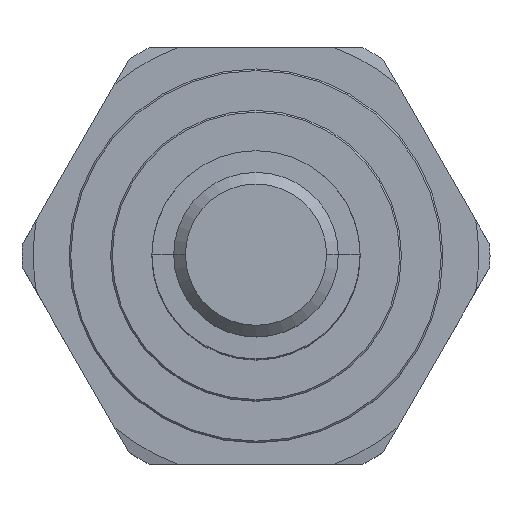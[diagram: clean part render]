
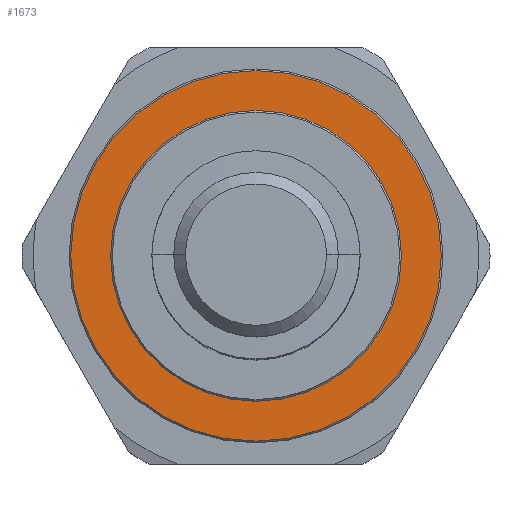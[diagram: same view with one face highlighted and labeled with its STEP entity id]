
A CAD part, top view. The second image highlights one B-rep face of the part: STEP entity #1673.
In plain terms, the highlighted planar face has unit normal (0, 0, 1).
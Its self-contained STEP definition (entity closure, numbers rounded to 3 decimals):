
#47=CARTESIAN_POINT('',(0.,0.,10.77));
#48=DIRECTION('',(0.,0.,-1.));
#49=DIRECTION('',(-1.,0.,0.));
#50=AXIS2_PLACEMENT_3D('',#47,#48,#49);
#52=CARTESIAN_POINT('',(0.,0.,10.77));
#53=DIRECTION('',(0.,0.,-1.));
#54=DIRECTION('',(1.,0.,0.));
#55=AXIS2_PLACEMENT_3D('',#52,#53,#54);
#57=CARTESIAN_POINT('',(0.,0.,10.77));
#58=DIRECTION('',(0.,0.,1.));
#59=DIRECTION('',(-1.,0.,0.));
#60=AXIS2_PLACEMENT_3D('',#57,#58,#59);
#62=CARTESIAN_POINT('',(0.,0.,10.77));
#63=DIRECTION('',(0.,0.,1.));
#64=DIRECTION('',(1.,0.,0.));
#65=AXIS2_PLACEMENT_3D('',#62,#63,#64);
#1299=CARTESIAN_POINT('',(-11.087,0.,10.77));
#1300=VERTEX_POINT('',#1299);
#1301=CARTESIAN_POINT('',(11.087,0.,10.77));
#1302=VERTEX_POINT('',#1301);
#1303=CARTESIAN_POINT('',(-14.129,0.,10.77));
#1304=CARTESIAN_POINT('',(14.129,0.,10.77));
#1305=VERTEX_POINT('',#1303);
#1306=VERTEX_POINT('',#1304);
#1658=CARTESIAN_POINT('',(0.,0.,10.77));
#1659=DIRECTION('',(0.,0.,1.));
#1660=DIRECTION('',(-1.,0.,0.));
#1661=AXIS2_PLACEMENT_3D('',#1658,#1659,#1660);
#1662=PLANE('',#1661);
#1664=ORIENTED_EDGE('',*,*,#1663,.T.);
#1666=ORIENTED_EDGE('',*,*,#1665,.T.);
#1667=EDGE_LOOP('',(#1664,#1666));
#1668=FACE_OUTER_BOUND('',#1667,.F.);
#1669=ORIENTED_EDGE('',*,*,#1652,.T.);
#1670=ORIENTED_EDGE('',*,*,#1638,.T.);
#1671=EDGE_LOOP('',(#1669,#1670));
#1672=FACE_BOUND('',#1671,.F.);
#1673=ADVANCED_FACE('',(#1668,#1672),#1662,.T.);
#51=CIRCLE('',#50,14.129);
#56=CIRCLE('',#55,14.129);
#61=CIRCLE('',#60,11.087);
#66=CIRCLE('',#65,11.087);
#1638=EDGE_CURVE('',#1302,#1300,#66,.T.);
#1652=EDGE_CURVE('',#1300,#1302,#61,.T.);
#1663=EDGE_CURVE('',#1305,#1306,#51,.T.);
#1665=EDGE_CURVE('',#1306,#1305,#56,.T.);
